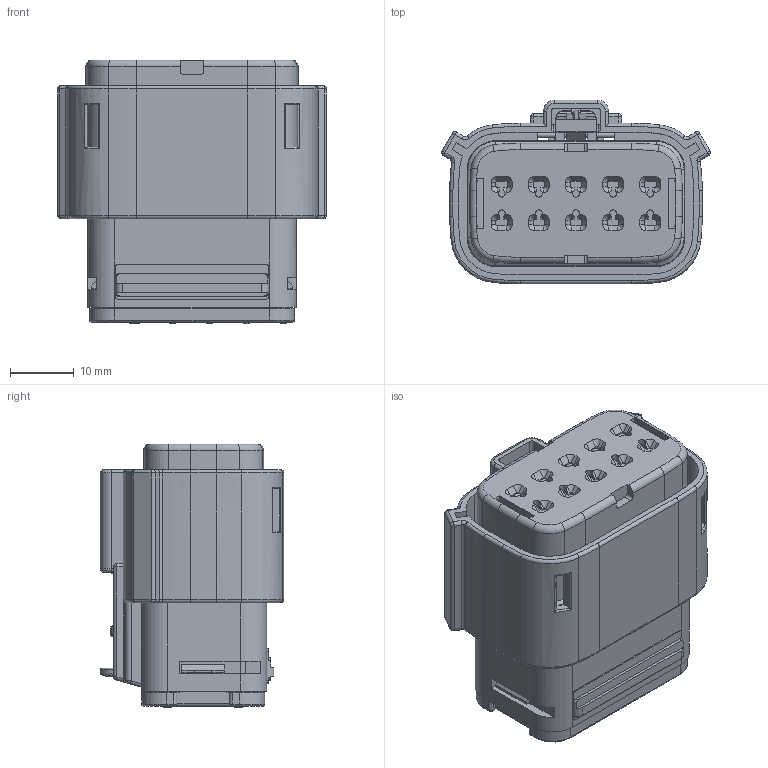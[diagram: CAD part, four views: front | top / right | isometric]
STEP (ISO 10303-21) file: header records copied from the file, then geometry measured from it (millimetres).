
FILE_DESCRIPTION((''),'2;1');
FILE_NAME('194180013','2014-09-17T',('ME'),(''),'PRO/ENGINEER BY PARAMETRIC TECHNOLOGY CORPORATION, 2011490','PRO/ENGINEER BY PARAMETRIC TECHNOLOGY CORPORATION, 2011490','');
FILE_SCHEMA(('CONFIG_CONTROL_DESIGN'));
Length unit declared in the file: millimetre
Products named in the file (1): 194180013
Bounding box: 42.24 x 28.89 x 41.49 mm (x, y, z)
Volume: 29145.8 mm3; surface area: 12906.1 mm2
Topology: 1 solids, 1 shells, 1567 faces, 4360 edges, 2821 vertices
Faces by surface type: plane 1029, cylinder 352, torus 81, cone 67, bspline 21, sphere 17
Entity records: 51580 total; most frequent: CARTESIAN_POINT 11368, ORIENTED_EDGE 8706, DIRECTION 7967, EDGE_CURVE 4353, VECTOR 3245, LINE 3245, VERTEX_POINT 2821, AXIS2_PLACEMENT_3D 2361
